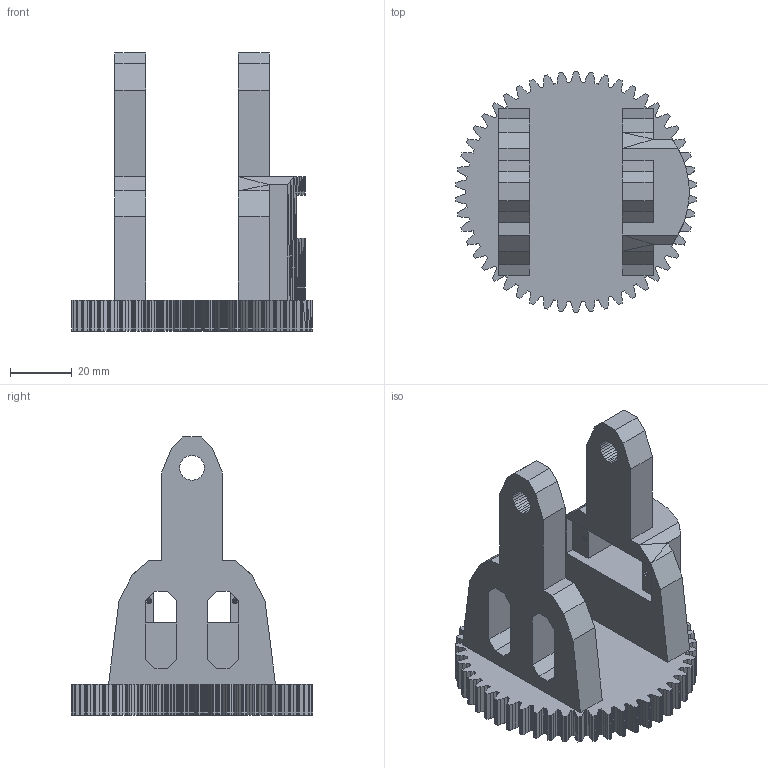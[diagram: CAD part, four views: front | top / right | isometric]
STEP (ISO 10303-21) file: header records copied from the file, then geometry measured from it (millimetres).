
FILE_DESCRIPTION(/* description */ ('STEP AP242 Edition 2','CAx-IF Rec.Pracs.---Representation and Presentation of Product Manufacturing Information (PMI)---4.0---2014-10-13','CAx-IF Rec.Pracs.---3D Tessellated Geometry---0.4---2014-09-14','2;1','CAx-IF Rec.Pracs.---User Defined Attributes---1.5---2016-08-15'),/* implementation_level */ '2;1');
FILE_NAME(/* name */ 'Tracker Assembly - Bracket',/* time_stamp */ '2026-10-25T15:06:34Z',/* author */ (''),/* organization */ (''),/* preprocessor_version */ 'ST-DEVELOPER v20',/* originating_system */ 'ONSHAPE BY PTC INC, 1.222',/* authorisation */ ' ');
FILE_SCHEMA (('AP242_MANAGED_MODEL_BASED_3D_ENGINEERING_MIM_LF { 1 0 10303 442 3 1 4 }'));
Length unit declared in the file: metre
Products named in the file (1): Bracket
Bounding box: 77.91 x 78 x 90 mm (x, y, z)
Volume: 95201.9 mm3; surface area: 29091.8 mm2
Topology: 1 solids, 1 shells, 1048 faces, 2763 edges, 1720 vertices
Faces by surface type: plane 1048
Entity records: 31221 total; most frequent: CARTESIAN_POINT 5532, ORIENTED_EDGE 5526, DIRECTION 4861, EDGE_CURVE 2763, LINE 2763, VECTOR 2763, VERTEX_POINT 1720, EDGE_LOOP 1061
